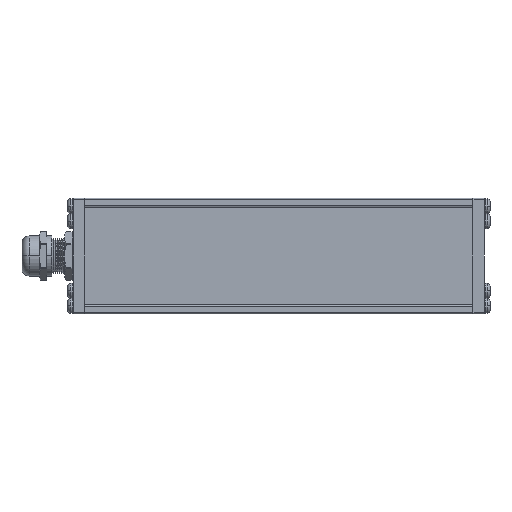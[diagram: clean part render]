
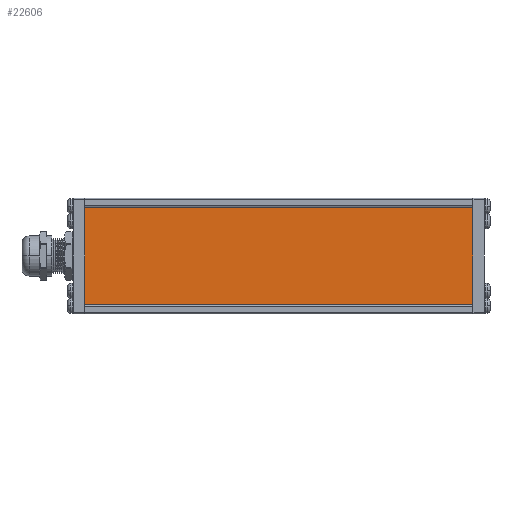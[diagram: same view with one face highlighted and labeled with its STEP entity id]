
A CAD part, front view. The second image highlights one B-rep face of the part: STEP entity #22606.
In plain terms, the highlighted planar face has unit normal (0, -1, 0) as drawn and (0, 1, 0) by its records, which use the part's own axes.
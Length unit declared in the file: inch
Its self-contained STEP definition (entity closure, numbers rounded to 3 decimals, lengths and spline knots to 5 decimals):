
#279 = CARTESIAN_POINT ( 'NONE',  ( 2.135, 0.03, 0.586 ) ) ;
#1569 = VECTOR ( 'NONE', #24809, 39.37008 ) ;
#1851 = PLANE ( 'NONE',  #21812 ) ;
#1956 = VERTEX_POINT ( 'NONE', #279 ) ;
#2506 = EDGE_CURVE ( 'NONE', #18718, #14590, #15298, .T. ) ;
#3928 = LINE ( 'NONE', #25725, #24340 ) ;
#5171 = CARTESIAN_POINT ( 'NONE',  ( -2.135, 0.03, 0.586 ) ) ;
#6471 = CARTESIAN_POINT ( 'NONE',  ( -2.135, 0.03, -0.586 ) ) ;
#9050 = LINE ( 'NONE', #23621, #11012 ) ;
#11012 = VECTOR ( 'NONE', #13861, 39.37008 ) ;
#11786 = LINE ( 'NONE', #5171, #1569 ) ;
#13861 = DIRECTION ( 'NONE',  ( 0., 0., -1. ) ) ;
#14590 = VERTEX_POINT ( 'NONE', #15109 ) ;
#14615 = DIRECTION ( 'NONE',  ( 0., 1., 0. ) ) ;
#15109 = CARTESIAN_POINT ( 'NONE',  ( -2.135, 0.03, -0.586 ) ) ;
#15298 = LINE ( 'NONE', #6471, #17247 ) ;
#15445 = ORIENTED_EDGE ( 'NONE', *, *, #15712, .T. ) ;
#15712 = EDGE_CURVE ( 'NONE', #1956, #18718, #9050, .T. ) ;
#16406 = EDGE_CURVE ( 'NONE', #14590, #21441, #3928, .T. ) ;
#17247 = VECTOR ( 'NONE', #26095, 39.37008 ) ;
#18578 = ORIENTED_EDGE ( 'NONE', *, *, #2506, .T. ) ;
#18633 = CARTESIAN_POINT ( 'NONE',  ( 2.135, 0.03, -0.586 ) ) ;
#18718 = VERTEX_POINT ( 'NONE', #18633 ) ;
#21441 = VERTEX_POINT ( 'NONE', #29317 ) ;
#21812 = AXIS2_PLACEMENT_3D ( 'NONE', #27071, #14615, #32053 ) ;
#22606 = ADVANCED_FACE ( 'NONE', ( #28178 ), #1851, .T. ) ;
#23621 = CARTESIAN_POINT ( 'NONE',  ( 2.135, 0.03, -0.586 ) ) ;
#24142 = ORIENTED_EDGE ( 'NONE', *, *, #31597, .T. ) ;
#24197 = ORIENTED_EDGE ( 'NONE', *, *, #16406, .T. ) ;
#24340 = VECTOR ( 'NONE', #30309, 39.37008 ) ;
#24809 = DIRECTION ( 'NONE',  ( 1., 0., 0. ) ) ;
#25725 = CARTESIAN_POINT ( 'NONE',  ( -2.135, 0.03, -0.586 ) ) ;
#26095 = DIRECTION ( 'NONE',  ( -1., 0., 0. ) ) ;
#27071 = CARTESIAN_POINT ( 'NONE',  ( -2.135, 0.03, 0.586 ) ) ;
#28178 = FACE_OUTER_BOUND ( 'NONE', #30431, .T. ) ;
#29317 = CARTESIAN_POINT ( 'NONE',  ( -2.135, 0.03, 0.586 ) ) ;
#30309 = DIRECTION ( 'NONE',  ( 0., 0., 1. ) ) ;
#30431 = EDGE_LOOP ( 'NONE', ( #24197, #24142, #15445, #18578 ) ) ;
#31597 = EDGE_CURVE ( 'NONE', #21441, #1956, #11786, .T. ) ;
#32053 = DIRECTION ( 'NONE',  ( 0., 0., 1. ) ) ;
